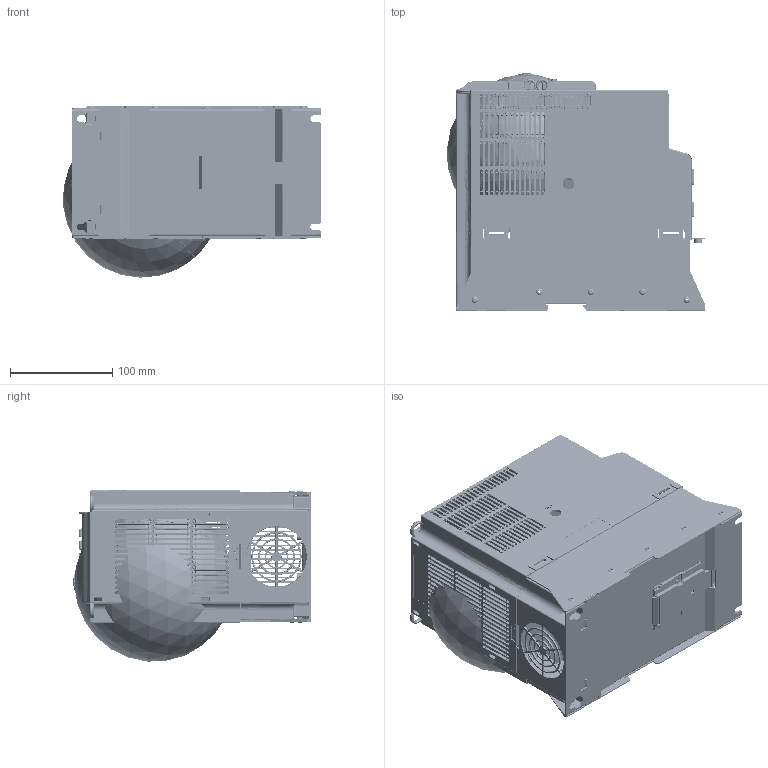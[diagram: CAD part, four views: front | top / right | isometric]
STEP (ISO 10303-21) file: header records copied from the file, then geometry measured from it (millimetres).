
FILE_DESCRIPTION((''),'2;1');
FILE_NAME('VFCX610_5_5_7_5KW_E_HOUSING','2018-06-26T10:36:00',('sha2xi'),(''),'CREO PARAMETRIC BY PTC INC, 2017260','CREO PARAMETRIC BY PTC INC, 2017260','');
FILE_SCHEMA(('AUTOMOTIVE_DESIGN { 1 0 10303 214 1 1 1 1 }'));
Products named in the file (47): VFCX610-5P5KW__BASE_2_1; VFCX610-5P5KW_BLACK-PLATE_1_1; VFCX610-5P5KW_BASE-REVIT_1_1; VFCX610-5P5KW_BASE_1_1; VFCX610_DIN_COVER_1_1; VFCX610_DIN_SPRING-PART_1_1; VFCX610-DIN_1_1; VFCX610-7P5KW_HEATSINK_1_1; VFC5610_5K5KW_CASE_RE_1_1; IO-COVER_1; LK_YCP06-PLATINE_20150206_1_1; CONNECTOR_20150206_1_1; CONNECTOR_TYCO-331_20150206_1_1; 548190519_20150206_1_1; CONNECT2-2_20150206_1_1; 2185-205SY3_20150206_1_1; 1155590000_20150206_1_1; MCDN_20150206_1-1423738_1; MCDN_20150206_1-1423766_1; 1953800_20150206_1_1; LK_YCP06_20150206_1_1; DB272710_20150206_1_1; 01-IOBACK_CASE_20150206_1_1; LD_KCCT_M3X10_20150206_1_1; 01_DISPLAYCASE__20150206_1_1; DISPLAY_PCB1__20150206_1_1; R911329772__20150206_1_1; R911330025__20150206_1_1; LED__20150206_1_1; CONNECTOR2__20150206_1_1; CONNECTOR_TYCO-331__20150206_1_; DISPLAY_PCB__20150206_1_1; BACK_CASE1__20150206_1_1; R911330333_FOLIE__20150206_1_1; BUUTTON__20150206_1_1; XUAN_NIU__20150206_1_1; LD_KCCT_M3X10__20150206_1_1; LABEL_15X50__20150206_1_1; LED_PANLE_20150206_1_1; PANEL_CONVER_20150206_1_1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
Assembly tree (63 placements, depth 8):
  VFCX610_5_5_7_5KW_E_HOUSING
    VFCX610-E_HOUSING_1
      00_VFCX610-7P5KW_1_1
        VFCX610-5P5KW_BASE_1_1
          VFCX610-5P5KW__BASE_2_1
          VFCX610-5P5KW_BLACK-PLATE_1_1
          VFCX610-5P5KW_BASE-REVIT_1_1  x10
        VFCX610-DIN_1_1
          VFCX610_DIN_COVER_1_1
          VFCX610_DIN_SPRING-PART_1_1
        VFCX610-7P5KW_HEATSINK_1_1
        VFC5610_5K5KW_CASE_RE_1_1
        00_VFCX610_IO-BOX_1_1
          IO-COVER_1
          LK_YCP06_20150206_1_1
            LK_YCP06-PLATINE_20150206_1_1
            CONNECTOR_20150206_1_1
            CONNECTOR_TYCO-331_20150206_1_1
            548190519_20150206_1_1
            CONNECT2-2_20150206_1_1
            2185-205SY3_20150206_1_1
            1155590000_20150206_1_1
            1953800_20150206_1_1
              MCDN_20150206_1-1423766_1
                MCDN_20150206_1-1423738_1
          DB272710_20150206_1_1
          01-IOBACK_CASE_20150206_1_1
          LD_KCCT_M3X10_20150206_1_1  x2
          LED_PANLE_20150206_1_1
            01_DISPLAYCASE__20150206_1_1
            DISPLAY_PCB__20150206_1_1
              DISPLAY_PCB1__20150206_1_1
              R911329772__20150206_1_1  x6
              R911330025__20150206_1_1
              LED__20150206_1_1
              CONNECTOR2__20150206_1_1
              CONNECTOR_TYCO-331__20150206_1_
            BACK_CASE1__20150206_1_1
            R911330333_FOLIE__20150206_1_1
            BUUTTON__20150206_1_1
            XUAN_NIU__20150206_1_1
            LD_KCCT_M3X10__20150206_1_1  x2
            LABEL_15X50__20150206_1_1
          PANEL_CONVER_20150206_1_1
          LDZHJ_SZCYZT_M3X8_1_1  x2
        VFCX610-5P5KW_FAN_DOWN_1_1
          VFCX610-5P5KW_FAN-COVER_DOWN_1_
Bounding box: 252.15 x 232.15 x 167.62 mm (x, y, z)
Surface area: 1097895.4 mm2 (no closed solid volume)
Topology: 0 solids, 0 shells, 12775 faces, 68908 edges, 67994 vertices
Faces by surface type: bspline 11889, torus 724, sphere 162
Entity records: 1470298 total; most frequent: CARTESIAN_POINT 494629, DIRECTION 116800, TRIMMED_CURVE 107119, VECTOR 99458, LINE 99458, PRESENTATION_STYLE_ASSIGNMENT 75572, STYLED_ITEM 75387, CURVE_STYLE 63354
